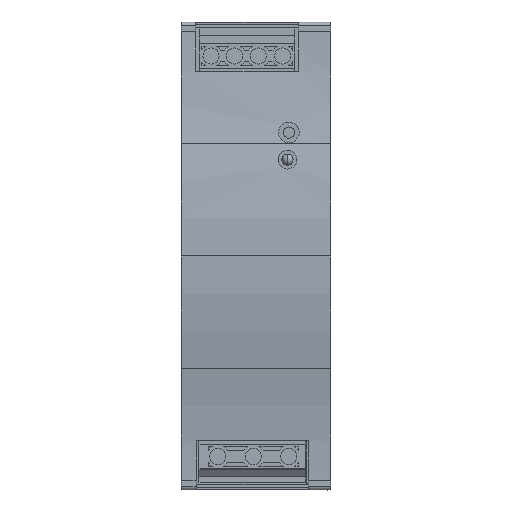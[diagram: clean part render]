
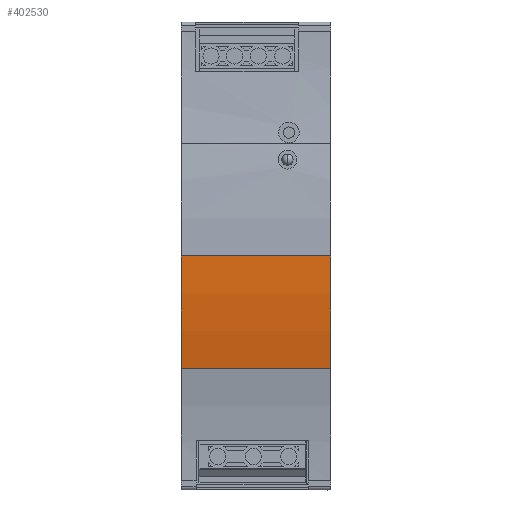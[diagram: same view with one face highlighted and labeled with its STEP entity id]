
A CAD part, left-side view. The second image highlights one B-rep face of the part: STEP entity #402530.
In plain terms, the highlighted cylindrical face has radius 150.5 mm (diameter 301 mm), a partial arc.
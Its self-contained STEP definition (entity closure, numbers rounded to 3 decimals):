
#42710=CARTESIAN_POINT('',(-10.954,19.236,
-18.11));
#42720=VERTEX_POINT('',#42710);
#42750=CARTESIAN_POINT('',(136.503,19.236,
12.));
#42760=DIRECTION('',(0.,-1.,0.));
#42770=DIRECTION('',(-1.,0.,0.));
#42780=AXIS2_PLACEMENT_3D('',#42750,#42760,#42770);
#42790=CIRCLE('',#42780,150.5);
#42800=CARTESIAN_POINT('',(-13.997,19.236,
12.));
#42810=VERTEX_POINT('',#42800);
#42820=EDGE_CURVE('',#42810,#42720,#42790,.T.);
#68710=CARTESIAN_POINT('',(136.503,24.986,
12.));
#68720=DIRECTION('',(0.,-1.,0.));
#68730=DIRECTION('',(-1.,0.,0.));
#68740=AXIS2_PLACEMENT_3D('',#68710,#68720,#68730);
#68750=CYLINDRICAL_SURFACE('',#68740,150.5);
#70780=CARTESIAN_POINT('',(-13.997,24.986,
12.));
#70790=DIRECTION('',(0.,-1.,0.));
#70800=VECTOR('',#70790,1.);
#70810=LINE('',#70780,#70800);
#70820=CARTESIAN_POINT('',(-13.997,59.236,
12.));
#70830=VERTEX_POINT('',#70820);
#70840=EDGE_CURVE('',#70830,#42810,#70810,.T.);
#70860=CARTESIAN_POINT('',(136.503,59.236,
12.));
#70870=DIRECTION('',(0.,-1.,0.));
#70880=DIRECTION('',(-1.,0.,0.));
#70890=AXIS2_PLACEMENT_3D('',#70860,#70870,#70880);
#70900=CIRCLE('',#70890,150.5);
#142560=CARTESIAN_POINT('',(-10.954,59.236,
-18.11));
#142570=VERTEX_POINT('',#142560);
#142580=EDGE_CURVE('',#70830,#142570,#70900,.T.);
#204360=CARTESIAN_POINT('',(-10.954,24.986,
-18.11));
#204370=DIRECTION('',(0.,1.,0.));
#204380=VECTOR('',#204370,1.);
#204390=LINE('',#204360,#204380);
#204400=EDGE_CURVE('',#42720,#142570,#204390,.T.);
#402470=ORIENTED_EDGE('',*,*,#42820,.F.);
#402480=ORIENTED_EDGE('',*,*,#204400,.F.);
#402490=ORIENTED_EDGE('',*,*,#142580,.T.);
#402500=ORIENTED_EDGE('',*,*,#70840,.F.);
#402510=EDGE_LOOP('',(#402500,#402490,#402480,#402470));
#402520=FACE_OUTER_BOUND('',#402510,.T.);
#402530=ADVANCED_FACE('',(#402520),#68750,.T.);
